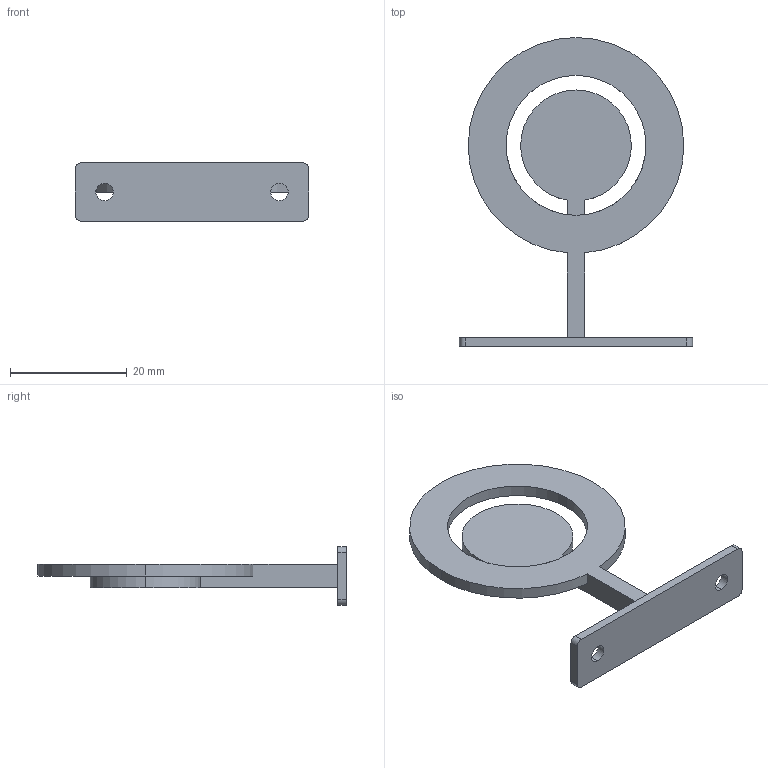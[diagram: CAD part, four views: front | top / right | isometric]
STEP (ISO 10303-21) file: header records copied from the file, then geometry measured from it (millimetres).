
FILE_DESCRIPTION (( 'STEP AP214' ), '1' );
FILE_NAME ('做部遠.STEP', '2025-08-06T07:26:56', ( '' ), ( '' ), 'SwSTEP 2.0', 'SolidWorks 2024', '' );
FILE_SCHEMA (( 'AUTOMOTIVE_DESIGN' ));
Length unit declared in the file: millimetre
Products named in the file (1): 暗场环
Bounding box: 40 x 53 x 10 mm (x, y, z)
Volume: 2618.6 mm3; surface area: 3491.9 mm2
Topology: 1 solids, 1 shells, 28 faces, 76 edges, 50 vertices
Faces by surface type: cylinder 16, plane 12
Entity records: 933 total; most frequent: DIRECTION 168, CARTESIAN_POINT 155, ORIENTED_EDGE 152, EDGE_CURVE 76, AXIS2_PLACEMENT_3D 63, VERTEX_POINT 50, LINE 42, VECTOR 42
